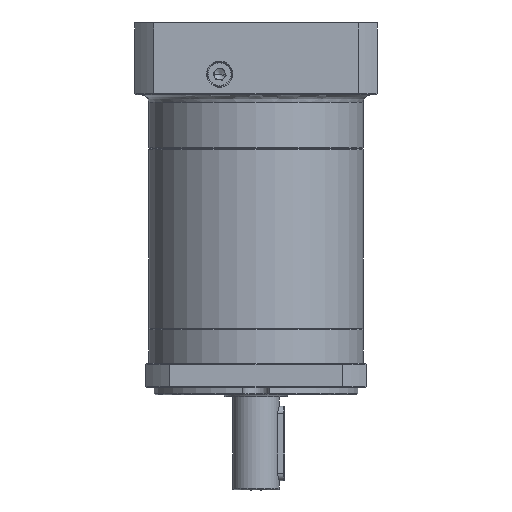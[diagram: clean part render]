
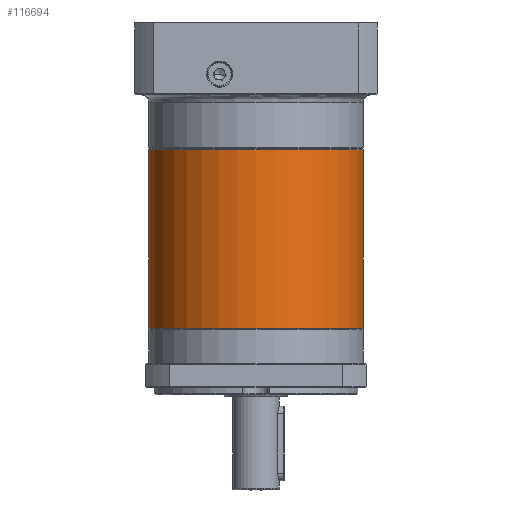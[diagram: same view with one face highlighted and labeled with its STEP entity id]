
A CAD part, front view. The second image highlights one B-rep face of the part: STEP entity #116694.
In plain terms, the highlighted cylindrical face has radius 57.5 mm (diameter 115 mm), a partial arc.
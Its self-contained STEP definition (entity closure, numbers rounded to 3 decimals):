
#3090 = AXIS2_PLACEMENT_3D ( 'NONE', #18682, #110921, #59938 ) ;
#3236 = CARTESIAN_POINT ( 'NONE',  ( 66.579, 48.833, -56.166 ) ) ;
#4194 = AXIS2_PLACEMENT_3D ( 'NONE', #112676, #49803, #18607 ) ;
#8240 = VECTOR ( 'NONE', #38248, 1000. ) ;
#17241 = AXIS2_PLACEMENT_3D ( 'NONE', #115342, #21684, #108313 ) ;
#18607 = DIRECTION ( 'NONE',  ( -1., 0., 0. ) ) ;
#18682 = CARTESIAN_POINT ( 'NONE',  ( 66.579, 48.833, -151.877 ) ) ;
#20888 = VERTEX_POINT ( 'NONE', #113302 ) ;
#21453 = EDGE_CURVE ( 'NONE', #120133, #135626, #68978, .T. ) ;
#21684 = DIRECTION ( 'NONE',  ( 0., 0., -1. ) ) ;
#28996 = ORIENTED_EDGE ( 'NONE', *, *, #65014, .T. ) ;
#32252 = CARTESIAN_POINT ( 'NONE',  ( 9.079, 48.833, -56.166 ) ) ;
#36484 = EDGE_CURVE ( 'NONE', #20888, #52585, #45180, .T. ) ;
#37849 = LINE ( 'NONE', #110749, #118353 ) ;
#37889 = EDGE_CURVE ( 'NONE', #39249, #52585, #52661, .T. ) ;
#38248 = DIRECTION ( 'NONE',  ( 0., 0., -1. ) ) ;
#39249 = VERTEX_POINT ( 'NONE', #78122 ) ;
#39617 = CARTESIAN_POINT ( 'NONE',  ( 124.079, 48.833, -55.666 ) ) ;
#39804 = EDGE_LOOP ( 'NONE', ( #73763, #28996, #122860, #72286, #93421 ) ) ;
#45180 = CIRCLE ( 'NONE', #3090, 57.5 ) ;
#48797 = DIRECTION ( 'NONE',  ( 0., 0., -1. ) ) ;
#49793 = EDGE_CURVE ( 'NONE', #135626, #20888, #37849, .T. ) ;
#49803 = DIRECTION ( 'NONE',  ( 0., 0., -1. ) ) ;
#52585 = VERTEX_POINT ( 'NONE', #86810 ) ;
#52661 = LINE ( 'NONE', #39617, #8240 ) ;
#54548 = AXIS2_PLACEMENT_3D ( 'NONE', #3236, #96410, #66588 ) ;
#59938 = DIRECTION ( 'NONE',  ( -1., 0., 0. ) ) ;
#65014 = EDGE_CURVE ( 'NONE', #39249, #120133, #97719, .T. ) ;
#66588 = DIRECTION ( 'NONE',  ( -1., 0., 0. ) ) ;
#68978 = CIRCLE ( 'NONE', #4194, 57.5 ) ;
#72286 = ORIENTED_EDGE ( 'NONE', *, *, #49793, .T. ) ;
#73763 = ORIENTED_EDGE ( 'NONE', *, *, #37889, .F. ) ;
#77133 = CARTESIAN_POINT ( 'NONE',  ( 66.579, -8.667, -56.166 ) ) ;
#78122 = CARTESIAN_POINT ( 'NONE',  ( 124.079, 48.833, -56.166 ) ) ;
#86810 = CARTESIAN_POINT ( 'NONE',  ( 124.079, 48.833, -151.877 ) ) ;
#93421 = ORIENTED_EDGE ( 'NONE', *, *, #36484, .T. ) ;
#96410 = DIRECTION ( 'NONE',  ( 0., 0., -1. ) ) ;
#97719 = CIRCLE ( 'NONE', #54548, 57.5 ) ;
#106682 = CYLINDRICAL_SURFACE ( 'NONE', #17241, 57.5 ) ;
#108313 = DIRECTION ( 'NONE',  ( -1., 0., 0. ) ) ;
#110749 = CARTESIAN_POINT ( 'NONE',  ( 9.079, 48.833, -55.666 ) ) ;
#110921 = DIRECTION ( 'NONE',  ( 0., 0., 1. ) ) ;
#112676 = CARTESIAN_POINT ( 'NONE',  ( 66.579, 48.833, -56.166 ) ) ;
#113302 = CARTESIAN_POINT ( 'NONE',  ( 9.079, 48.833, -151.877 ) ) ;
#115342 = CARTESIAN_POINT ( 'NONE',  ( 66.579, 48.833, -55.666 ) ) ;
#116694 = ADVANCED_FACE ( 'NONE', ( #133130 ), #106682, .T. ) ;
#118353 = VECTOR ( 'NONE', #48797, 1000. ) ;
#120133 = VERTEX_POINT ( 'NONE', #77133 ) ;
#122860 = ORIENTED_EDGE ( 'NONE', *, *, #21453, .T. ) ;
#133130 = FACE_OUTER_BOUND ( 'NONE', #39804, .T. ) ;
#135626 = VERTEX_POINT ( 'NONE', #32252 ) ;
